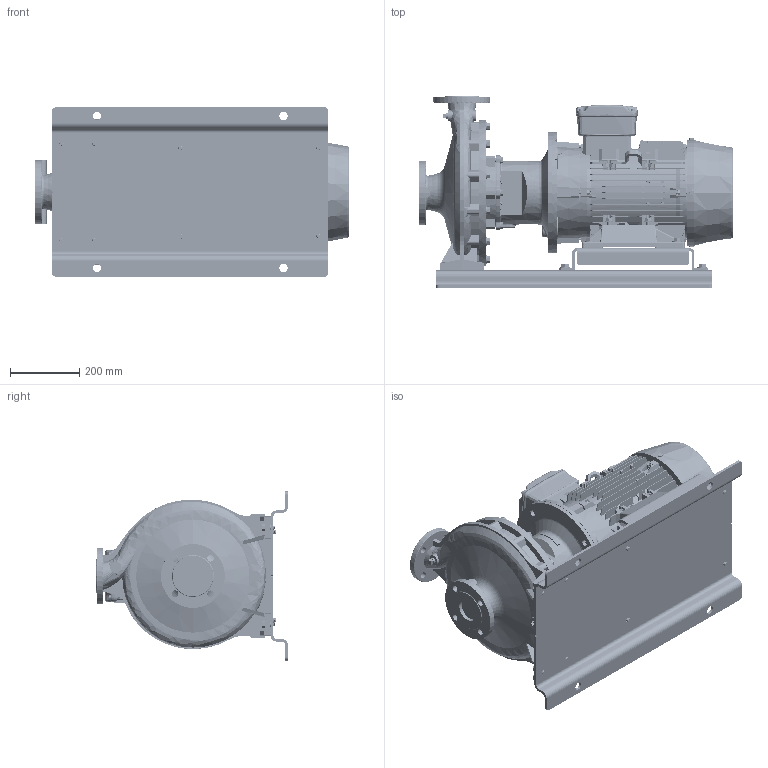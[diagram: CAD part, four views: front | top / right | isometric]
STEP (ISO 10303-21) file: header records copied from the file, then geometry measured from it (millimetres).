
FILE_DESCRIPTION (( 'STEP AP214' ), '1' );
FILE_NAME ('GSD4 50-315_11.0_(160ML)_W21_BP.STEP', '2024-08-12T05:59:07', ( '' ), ( '' ), 'SwSTEP 2.0', 'SolidWorks 2019', '' );
FILE_SCHEMA (( 'AUTOMOTIVE_DESIGN' ));
Length unit declared in the file: millimetre
Products named in the file (21): Parametric bolt and washer_SFT-A299B; Parametric bolt and washer_SFT-A303B; Parametric bolt_SFT-A303B; Parametric bolt and washer_SFT-A297B; 50-315-160M_L_______; Parametric bolt_SFT-A299B; N5S3 GSDA-536 F1-1832927-00; GSD4 50-315_11.0_(160ML)_W21_BP; CGS11-5253; 160M_L_ALIE3_W21T_B35; Parametric bolt_SFT-A297B; Parametric Flat Washer_M12
Assembly tree (40 placements, depth 3):
  GSD4 50-315_11.0_(160ML)_W21_BP
    50-315-160M_L_______
    N5S3 GSDA-536 F1-1832927-00
    CGS11-5253
    Parametric bolt and washer_SFT-A299B
      Parametric bolt_SFT-A299B
      Parametric Flat Washer_M12
    Parametric bolt and washer_SFT-A299B
      Parametric bolt_SFT-A299B
      Parametric Flat Washer_M12
    Parametric bolt and washer_SFT-A299B
      Parametric bolt_SFT-A299B
      Parametric Flat Washer_M12
    Parametric bolt and washer_SFT-A299B
      Parametric bolt_SFT-A299B
      Parametric Flat Washer_M12
    Parametric bolt and washer_SFT-A297B
      Parametric bolt_SFT-A297B
      Parametric Flat Washer_M12
    Parametric bolt and washer_SFT-A297B
      Parametric bolt_SFT-A297B
      Parametric Flat Washer_M12
    Parametric bolt and washer_SFT-A297B
      Parametric bolt_SFT-A297B
      Parametric Flat Washer_M12
    Parametric bolt and washer_SFT-A297B
      Parametric bolt_SFT-A297B
      Parametric Flat Washer_M12
    Parametric bolt and washer_SFT-A303B
      Parametric bolt_SFT-A303B
      Parametric Flat Washer_M12
    Parametric bolt and washer_SFT-A303B
      Parametric bolt_SFT-A303B
      Parametric Flat Washer_M12
    Parametric bolt and washer_SFT-A303B
      Parametric bolt_SFT-A303B
      Parametric Flat Washer_M12
    Parametric bolt and washer_SFT-A303B
      Parametric bolt_SFT-A303B
      Parametric Flat Washer_M12
    160M_L_ALIE3_W21T_B35
Bounding box: 910.3 x 555 x 490 mm (x, y, z)
Volume: 56002482.3 mm3; surface area: 4349227.9 mm2
Topology: 65 solids, 71 shells, 6561 faces, 16953 edges, 10951 vertices
Faces by surface type: plane 3901, cylinder 1307, cone 633, bspline 472, torus 232, sphere 16
Entity records: 281648 total; most frequent: CARTESIAN_POINT 88267, ORIENTED_EDGE 31128, DIRECTION 26358, EDGE_CURVE 15564, VERTEX_POINT 10069, VECTOR 9810, LINE 9810, AXIS2_PLACEMENT_3D 8274
